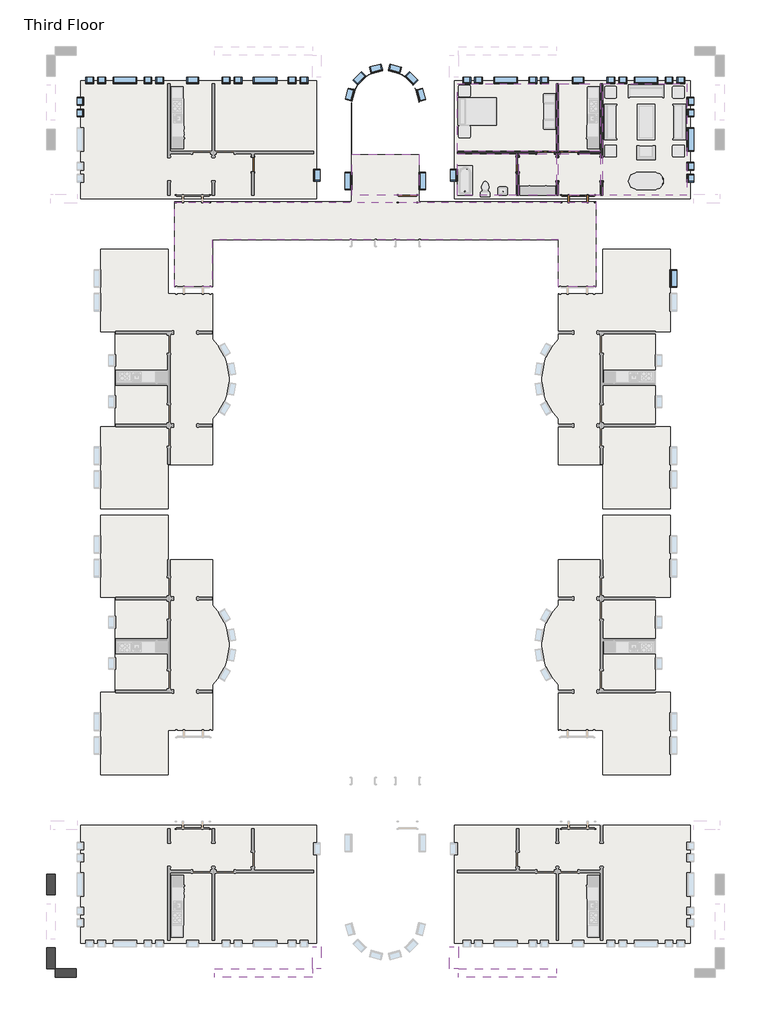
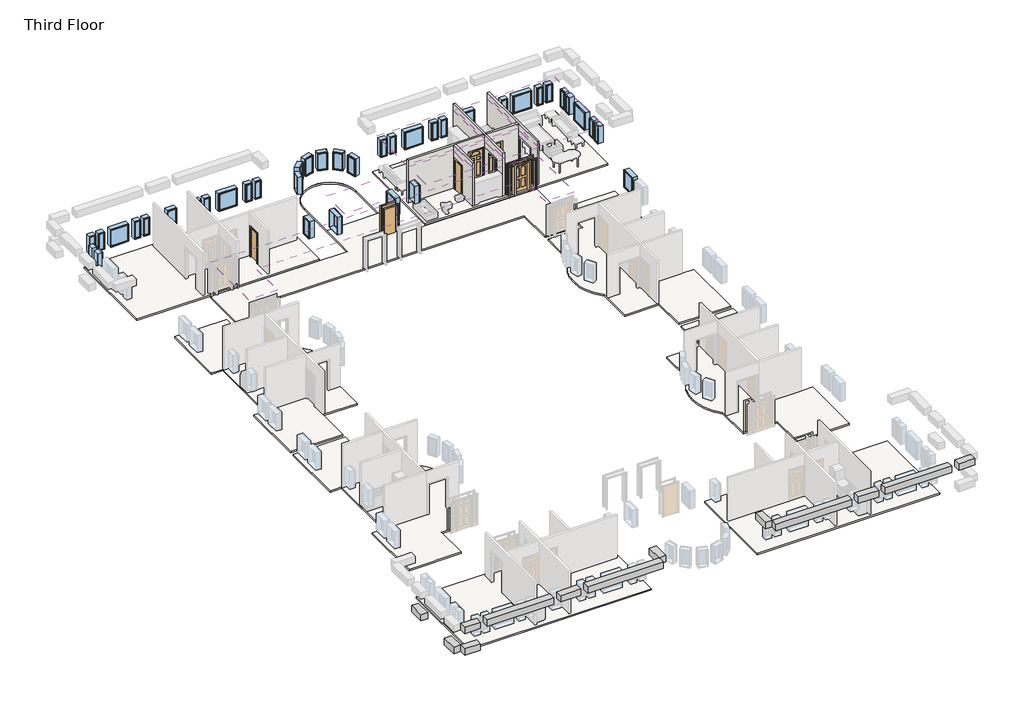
# One storey, part 3 of 4: 40 windows, 9 slabs, 8 coverings, 7 beams, 6 doors, 5 walls.
"""IFC4 building model written with IfcOpenShell, lengths in millimetres."""

from ifc_helpers import new_model, si_unit, point, frame, frame_2d, origin, place, context, project, spatial, polyline, circle_curve, trimmed, segment, composite_curve, outline, extrude, faceted_brep, transform, mapped, element, save
from components import door_829da954, door_2e3b4da2, door_4d6c7550, door_e36758a9, door_632be17d, door_dba5aa2e, window_da97879f, window_d61ef850, window_60baf983, window_ed80354a, window_15c49d37, window_0e2fc6ce, window_6eb97611, window_d89bf842

model = new_model("IFC4")

# Units and contexts
model_context = context("Model", 3, world=origin())
ifc_project = project(units=[si_unit("LENGTHUNIT", "METRE", prefix="MILLI")], contexts=[model_context])

# Site, building, storey
site = spatial("IfcSite", under=ifc_project)
building = spatial("IfcBuilding", under=site)
storey = spatial("IfcBuildingStorey", under=building, Name="Third Floor", Elevation=6096.0)

# Beams
placement = place(None, origin())
element("IfcBeam", 1, ObjectType="Concrete-Rectangular Beam : 18 x 18", at=placement, inside=storey, context=model_context, shape_type="SweptSolid", body=[
    extrude(outline(polyline([(2093.9410437, -35349.9683133), (2093.9410437, -35807.1683133), (1027.1410437, -35807.1683133), (1027.1410437, -35349.9683133), (2093.9410437, -35349.9683133)])), frame((0.0, 0.0, 8686.8), z_axis=(0.0, 0.0, 1.0), x_axis=(1.0, 0.0, 0.0)), (0.0, 0.0, 1.0), 457.2),
    extrude(outline(polyline([(-11164.8589563, -35807.1683133), (-11164.8589563, -35349.9683133), (-6122.9589563, -35349.9683133), (-6122.9589563, -35807.1683133), (-11164.8589563, -35807.1683133)])), frame((0.0, 0.0, 8686.8), z_axis=(0.0, 0.0, 1.0), x_axis=(1.0, 0.0, 0.0)), (0.0, 0.0, 1.0), 457.2),
    extrude(outline(polyline([(569.9410437, -35349.9683133), (569.9410437, -35807.1683133), (-3862.3589563, -35807.1683133), (-3862.3589563, -35349.9683133), (569.9410437, -35349.9683133)])), frame((0.0, 0.0, 8686.8), z_axis=(0.0, 0.0, 1.0), x_axis=(1.0, 0.0, 0.0)), (0.0, 0.0, 1.0), 457.2),
    extrude(outline(polyline([(-4319.5589563, -35349.9683133), (-4319.5589563, -35807.1683133), (-5665.7589563, -35807.1683133), (-5665.7589563, -35349.9683133), (-4319.5589563, -35349.9683133)])), frame((0.0, 0.0, 8686.8), z_axis=(0.0, 0.0, 1.0), x_axis=(1.0, 0.0, 0.0)), (0.0, 0.0, 1.0), 457.2),
])
element("IfcBeam", 2, ObjectType="Concrete-Rectangular Beam : 18 x 18", at=placement, inside=storey, context=model_context, shape_type="SweptSolid", body=[
    extrude(outline(polyline([(-11622.0589563, -34232.3683133), (-11164.8589563, -34232.3683133), (-11164.8589563, -35349.9683133), (-11622.0589563, -35349.9683133), (-11622.0589563, -34232.3683133)])), frame((0.0, 0.0, 8686.8), z_axis=(0.0, 0.0, 1.0), x_axis=(1.0, 0.0, 0.0)), (0.0, 0.0, 1.0), 457.2),
])
element("IfcBeam", 3, ObjectType="Concrete-Rectangular Beam : 18 x 18", at=placement, inside=storey, context=model_context, shape_type="SweptSolid", body=[
    extrude(outline(polyline([(-30897.4839563, -35349.9683133), (-30897.4839563, -35807.1683133), (-31964.2839563, -35807.1683133), (-31964.2839563, -35349.9683133), (-30897.4839563, -35349.9683133)])), frame((0.0, 0.0, 7162.8), z_axis=(0.0, 0.0, 1.0), x_axis=(1.0, 0.0, 0.0)), (0.0, 0.0, 1.0), 457.2),
])
element("IfcBeam", 4, ObjectType="Concrete-Rectangular Beam : 18 x 18", at=placement, inside=storey, context=model_context, shape_type="SweptSolid", body=[
    extrude(outline(polyline([(-32421.4839563, -34283.1683133), (-31964.2839563, -34283.1683133), (-31964.2839563, -35349.9683133), (-32421.4839563, -35349.9683133), (-32421.4839563, -34283.1683133)])), frame((0.0, 0.0, 7162.8), z_axis=(0.0, 0.0, 1.0), x_axis=(1.0, 0.0, 0.0)), (0.0, 0.0, 1.0), 457.2),
])
element("IfcBeam", 5, ObjectType="Concrete-Rectangular Beam : 18 x 18", at=placement, inside=storey, context=model_context, shape_type="SweptSolid", body=[
    extrude(outline(polyline([(-32421.4839563, -30473.1683133), (-31964.2839563, -30473.1683133), (-31964.2839563, -31539.9683133), (-32421.4839563, -31539.9683133), (-32421.4839563, -30473.1683133)])), frame((0.0, 0.0, 7162.8), z_axis=(0.0, 0.0, 1.0), x_axis=(1.0, 0.0, 0.0)), (0.0, 0.0, 1.0), 457.2),
])
element("IfcBeam", 6, ObjectType="Concrete-Rectangular Beam : 18 x 18", at=placement, inside=storey, context=model_context, shape_type="SweptSolid", body=[
    extrude(outline(polyline([(-31964.2839563, -35807.1683133), (-31964.2839563, -35349.9683133), (-30897.4839563, -35349.9683133), (-30897.4839563, -35807.1683133), (-31964.2839563, -35807.1683133)])), frame((0.0, 0.0, 8686.8), z_axis=(0.0, 0.0, 1.0), x_axis=(1.0, 0.0, 0.0)), (0.0, 0.0, 1.0), 457.2),
    extrude(outline(polyline([(-18705.4839563, -35349.9683133), (-18705.4839563, -35807.1683133), (-23747.3839563, -35807.1683133), (-23747.3839563, -35349.9683133), (-18705.4839563, -35349.9683133)])), frame((0.0, 0.0, 8686.8), z_axis=(0.0, 0.0, 1.0), x_axis=(1.0, 0.0, 0.0)), (0.0, 0.0, 1.0), 457.2),
    extrude(outline(polyline([(-30440.2839563, -35807.1683133), (-30440.2839563, -35349.9683133), (-26007.9839563, -35349.9683133), (-26007.9839563, -35807.1683133), (-30440.2839563, -35807.1683133)])), frame((0.0, 0.0, 8686.8), z_axis=(0.0, 0.0, 1.0), x_axis=(1.0, 0.0, 0.0)), (0.0, 0.0, 1.0), 457.2),
    extrude(outline(polyline([(-25550.7839563, -35807.1683133), (-25550.7839563, -35349.9683133), (-24204.5839563, -35349.9683133), (-24204.5839563, -35807.1683133), (-25550.7839563, -35807.1683133)])), frame((0.0, 0.0, 8686.8), z_axis=(0.0, 0.0, 1.0), x_axis=(1.0, 0.0, 0.0)), (0.0, 0.0, 1.0), 457.2),
])
element("IfcBeam", 7, ObjectType="Concrete-Rectangular Beam : 18 x 18", at=placement, inside=storey, context=model_context, shape_type="SweptSolid", body=[
    extrude(outline(polyline([(-18705.4839563, -34232.3683133), (-18248.2839563, -34232.3683133), (-18248.2839563, -35349.9683133), (-18705.4839563, -35349.9683133), (-18705.4839563, -34232.3683133)])), frame((0.0, 0.0, 8686.8), z_axis=(0.0, 0.0, 1.0), x_axis=(1.0, 0.0, 0.0)), (0.0, 0.0, 1.0), 457.2),
])

# Coverings
element("IfcCovering", 8, ObjectType="GWB on Mtl. Stud", at=placement, inside=storey, context=model_context, shape_type="SweptSolid", body=[
    extrude(outline(polyline([(-11217.2464563, 10270.0191867), (-6122.9589563, 10270.0191867), (-6122.9589563, 6787.0441867), (-11217.2464563, 6787.0441867), (-11217.2464563, 10270.0191867)])), frame((0.0, 0.0, 8686.8), z_axis=(0.0, 0.0, 1.0), x_axis=(1.0, 0.0, 0.0)), (0.0, 0.0, 1.0), 107.95),
])
element("IfcCovering", 9, ObjectType="GWB on Mtl. Stud", at=placement, inside=storey, context=model_context, shape_type="SweptSolid", body=[
    extrude(outline(polyline([(-5995.9589563, 6787.0441867), (-5995.9589563, 10270.0191867), (-3836.9589563, 10270.0191867), (-3836.9589563, 6787.0441867), (-5995.9589563, 6787.0441867)])), frame((0.0, 0.0, 8686.8), z_axis=(0.0, 0.0, 1.0), x_axis=(1.0, 0.0, 0.0)), (0.0, 0.0, 1.0), 107.95),
])
element("IfcCovering", 10, ObjectType="GWB on Mtl. Stud", at=placement, inside=storey, context=model_context, shape_type="SweptSolid", body=[
    extrude(outline(polyline([(-3709.9589563, 4526.4441867), (-3709.9589563, 10270.0191867), (622.3285437, 10270.0191867), (622.3285437, 4526.4441867), (-3709.9589563, 4526.4441867)])), frame((0.0, 0.0, 8686.8), z_axis=(0.0, 0.0, 1.0), x_axis=(1.0, 0.0, 0.0)), (0.0, 0.0, 1.0), 107.95),
])
element("IfcCovering", 11, ObjectType="GWB on Mtl. Stud", at=placement, inside=storey, context=model_context, shape_type="SweptSolid", body=[
    extrude(outline(polyline([(-3836.9589563, 4526.4441867), (-5995.9589563, 4526.4441867), (-5995.9589563, 6660.0441867), (-3836.9589563, 6660.0441867), (-3836.9589563, 4526.4441867)])), frame((0.0, 0.0, 8686.8), z_axis=(0.0, 0.0, 1.0), x_axis=(1.0, 0.0, 0.0)), (0.0, 0.0, 1.0), 107.95),
])
element("IfcCovering", 12, ObjectType="GWB on Mtl. Stud", at=placement, inside=storey, context=model_context, shape_type="SweptSolid", body=[
    extrude(outline(polyline([(-6122.9589563, 4526.4441867), (-8042.2464563, 4526.4441867), (-8042.2464563, 6660.0441867), (-6122.9589563, 6660.0441867), (-6122.9589563, 4526.4441867)])), frame((0.0, 0.0, 8686.8), z_axis=(0.0, 0.0, 1.0), x_axis=(1.0, 0.0, 0.0)), (0.0, 0.0, 1.0), 107.95),
])
element("IfcCovering", 13, ObjectType="GWB on Mtl. Stud", at=placement, inside=storey, context=model_context, shape_type="SweptSolid", body=[
    extrude(outline(polyline([(-8169.2464563, 6660.0441867), (-8169.2464563, 4526.4441867), (-11217.2464563, 4526.4441867), (-11217.2464563, 6660.0441867), (-8169.2464563, 6660.0441867)])), frame((0.0, 0.0, 8686.8), z_axis=(0.0, 0.0, 1.0), x_axis=(1.0, 0.0, 0.0)), (0.0, 0.0, 1.0), 107.95),
])
element("IfcCovering", 14, ObjectType="GWB on Mtl. Stud", at=placement, inside=storey, context=model_context, shape_type="SweptSolid", body=[
    extrude(outline(polyline([(-13206.3839563, 4526.4441867), (-16663.9589563, 4526.4441867), (-16663.9589563, 6636.2316867), (-13206.3839563, 6636.2316867), (-13206.3839563, 4526.4441867)])), frame((0.0, 0.0, 8534.4), z_axis=(0.0, 0.0, 1.0), x_axis=(1.0, 0.0, 0.0)), (0.0, 0.0, 1.0), 107.95),
])
element("IfcCovering", 15, ObjectType="GWB on Mtl. Stud", at=placement, inside=storey, context=model_context, shape_type="SweptSolid", body=[
    extrude(outline(polyline([(-5995.9589563, -197.9558133), (-5995.9589563, 2240.4441867), (-23874.3839563, 2240.4441867), (-23874.3839563, -197.9558133), (-25807.9589563, -197.9558133), (-25807.9589563, 4174.0191867), (-4062.3839563, 4174.0191867), (-4062.3839563, -197.9558133), (-5995.9589563, -197.9558133)])), frame((0.0, 0.0, 8534.4), z_axis=(0.0, 0.0, 1.0), x_axis=(1.0, 0.0, 0.0)), (0.0, 0.0, 1.0), 107.95),
])

# Doors
door_shape = door_829da954(model_context)
element("IfcDoor", 16, ObjectType="Single-Decorative 2 : 36\" x 84\"", at=placement, inside=storey, context=model_context, shape_type="MappedRepresentation", body=[
    mapped(door_shape, transform((-5449.8589563, 6723.5441867, 6096.0), x_axis=(-1.0, 0.0, 0.0), y_axis=(0.0, -1.0, 0.0), z_axis=(0.0, 0.0, 1.0))),
])
door_2_shape = door_2e3b4da2(model_context)
element("IfcDoor", 17, ObjectType="Single-Decorative 2 : 36\" x 84\"", at=placement, inside=storey, context=model_context, shape_type="MappedRepresentation", body=[
    mapped(door_2_shape, transform((-6669.0589563, 6723.5441867, 6096.0), x_axis=(1.0, 0.0, 0.0), y_axis=(0.0, 1.0, 0.0), z_axis=(0.0, 0.0, 1.0))),
])
door_3_shape = door_4d6c7550(model_context)
element("IfcDoor", 18, ObjectType="Single-Flush : 30\" x 84\"", at=placement, inside=storey, context=model_context, shape_type="MappedRepresentation", body=[
    mapped(door_3_shape, transform((-8105.7464563, 6113.9441867, 6096.0), x_axis=(0.0, 1.0, 0.0), y_axis=(-1.0, 0.0, 0.0), z_axis=(0.0, 0.0, 1.0))),
])
door_4_shape = door_e36758a9(model_context)
element("IfcDoor", 19, ObjectType="Single-Flush : 30\" x 84\"", at=placement, inside=storey, context=model_context, shape_type="MappedRepresentation", body=[
    mapped(door_4_shape, transform((-21764.5964563, 6113.9441867, 6096.0), x_axis=(0.0, 1.0, 0.0), y_axis=(-1.0, 0.0, 0.0), z_axis=(0.0, 0.0, 1.0))),
])
door_5_shape = door_632be17d(model_context)
element("IfcDoor", 20, ObjectType="Single-Flush : 36\" x 84\"", at=placement, inside=storey, context=model_context, shape_type="MappedRepresentation", body=[
    mapped(door_5_shape, transform((-13792.1714563, 4350.2316867, 6096.0), x_axis=(1.0, 0.0, 0.0), y_axis=(0.0, 1.0, 0.0), z_axis=(0.0, 0.0, 1.0))),
])
door_6_shape = door_dba5aa2e(model_context)
element("IfcDoor", 21, ObjectType="Single-Raised Panel with Sidelights : 36\" x 84\"", at=placement, inside=storey, context=model_context, shape_type="MappedRepresentation", body=[
    mapped(door_6_shape, transform((-4992.6589563, 4350.2316867, 6096.0), x_axis=(-1.0, 0.0, 0.0), y_axis=(0.0, -1.0, 0.0), z_axis=(0.0, 0.0, 1.0))),
])

# Slabs
element("IfcSlab", 22, ObjectType="LW Concrete on Metal Deck", at=placement, inside=storey, context=model_context, shape_type="SweptSolid", body=[
    extrude(outline(polyline([(787.4285437, 10435.1191867), (787.4285437, 4361.3441867), (-11382.3464563, 4361.3441867), (-11382.3464563, 10435.1191867), (787.4285437, 10435.1191867)])), frame((0.0, 0.0, 5991.225), z_axis=(0.0, 0.0, 1.0), x_axis=(1.0, 0.0, 0.0)), (0.0, 0.0, 1.0), 104.775),
])
element("IfcSlab", 23, ObjectType="LW Concrete on Metal Deck", at=placement, inside=storey, context=model_context, shape_type="SweptSolid", body=[
    extrude(outline(composite_curve([segment(polyline([(-13193.6839563, 9227.0316867), (-13193.6839563, 4186.7191867), (-4062.3839563, 4186.7191867), (-4062.3839563, -197.9558133), (-6008.6589563, -197.9558133), (-6008.6589563, 2227.7441867), (-23861.6839563, 2227.7441867), (-23861.6839563, -197.9558133), (-25807.9589563, -197.9558133), (-25807.9589563, 4186.7191867), (-16676.6589563, 4186.7191867), (-16676.6589563, 9227.0316867)]), True, "CONTINUOUS"), segment(trimmed(circle_curve(frame_2d((-14935.1714563, 9227.0316867)), 1741.4875), [point((-16676.6589563, 9227.0316867))], [point((-13193.6839563, 9227.0316867))], False, "CARTESIAN"), True, "CONTINUOUS")], self_intersect=False), holes=[composite_curve([segment(polyline([(-16663.9589563, 6636.2316867), (-13206.3839563, 6636.2316867), (-13206.3839563, 9227.0316867)]), True, "CONTINUOUS"), segment(trimmed(circle_curve(frame_2d((-14935.1714563, 9227.0316867)), 1728.7875), [point((-13206.3839563, 9227.0316867))], [point((-16663.9589563, 9227.0316867))], True, "CARTESIAN"), True, "CONTINUOUS"), segment(polyline([(-16663.9589563, 9227.0316867), (-16663.9589563, 6636.2316867)]), True, "CONTINUOUS")], self_intersect=False)]), frame((0.0, 0.0, 5991.225), z_axis=(0.0, 0.0, 1.0), x_axis=(1.0, 0.0, 0.0)), (0.0, 0.0, 1.0), 104.775),
])
element("IfcSlab", 24, ObjectType="LW Concrete on Metal Deck", at=placement, inside=storey, context=model_context, shape_type="SweptSolid", body=[
    extrude(outline(composite_curve([segment(polyline([(-239.6839563, -7395.6808133), (-239.6839563, -11640.6558133), (-3722.6589563, -11640.6558133), (-3722.6589563, -9354.6558133), (-6008.6589563, -9354.6558133), (-6008.6589563, -6994.1453152)]), True, "CONTINUOUS"), segment(trimmed(circle_curve(frame_2d((-3995.4640713, -4946.1683133)), 2871.7875), [point((-6008.6589563, -6994.1453152))], [point((-6008.6589563, -2898.1913115))], False, "CARTESIAN"), True, "CONTINUOUS"), segment(polyline([(-6008.6589563, -2898.1913115), (-6008.6589563, -537.6808133), (-3722.6589563, -537.6808133), (-3722.6589563, 1748.3191867), (-239.6839563, 1748.3191867), (-239.6839563, -2496.6558133), (-1001.6839563, -2496.6558133), (-1001.6839563, -7395.6808133), (-239.6839563, -7395.6808133)]), True, "CONTINUOUS")], self_intersect=False)), frame((0.0, 0.0, 5991.225), z_axis=(0.0, 0.0, 1.0), x_axis=(1.0, 0.0, 0.0)), (0.0, 0.0, 1.0), 104.775),
])
element("IfcSlab", 25, ObjectType="LW Concrete on Metal Deck", at=placement, inside=storey, context=model_context, shape_type="SweptSolid", body=[
    extrude(outline(polyline([(-30657.7714563, 10435.1191867), (-18487.9964563, 10435.1191867), (-18487.9964563, 4361.3441867), (-30657.7714563, 4361.3441867), (-30657.7714563, 10435.1191867)])), frame((0.0, 0.0, 5991.225), z_axis=(0.0, 0.0, 1.0), x_axis=(1.0, 0.0, 0.0)), (0.0, 0.0, 1.0), 104.775),
])
element("IfcSlab", 26, ObjectType="LW Concrete on Metal Deck", at=placement, inside=storey, context=model_context, shape_type="SweptSolid", body=[
    extrude(outline(composite_curve([segment(polyline([(-29630.6589563, -7395.6808133), (-28868.6589563, -7395.6808133), (-28868.6589563, -2496.6558133), (-29630.6589563, -2496.6558133), (-29630.6589563, 1748.3191867), (-26147.6839563, 1748.3191867), (-26147.6839563, -537.6808133), (-23861.6839563, -537.6808133), (-23861.6839563, -2898.1913115)]), True, "CONTINUOUS"), segment(trimmed(circle_curve(frame_2d((-25874.8788413, -4946.1683133)), 2871.7875), [point((-23861.6839563, -2898.1913115))], [point((-23861.6839563, -6994.1453152))], False, "CARTESIAN"), True, "CONTINUOUS"), segment(polyline([(-23861.6839563, -6994.1453152), (-23861.6839563, -9354.6558133), (-26147.6839563, -9354.6558133), (-26147.6839563, -11640.6558133), (-29630.6589563, -11640.6558133), (-29630.6589563, -7395.6808133)]), True, "CONTINUOUS")], self_intersect=False)), frame((0.0, 0.0, 5991.225), z_axis=(0.0, 0.0, 1.0), x_axis=(1.0, 0.0, 0.0)), (0.0, 0.0, 1.0), 104.775),
])
element("IfcSlab", 27, ObjectType="LW Concrete on Metal Deck", at=placement, inside=storey, context=model_context, shape_type="SweptSolid", body=[
    extrude(outline(polyline([(787.4285437, -34043.4558133), (-11382.3464563, -34043.4558133), (-11382.3464563, -27969.6808133), (787.4285437, -27969.6808133), (787.4285437, -34043.4558133)])), frame((0.0, 0.0, 5991.225), z_axis=(0.0, 0.0, 1.0), x_axis=(1.0, 0.0, 0.0)), (0.0, 0.0, 1.0), 104.775),
])
element("IfcSlab", 28, ObjectType="LW Concrete on Metal Deck", at=placement, inside=storey, context=model_context, shape_type="SweptSolid", body=[
    extrude(outline(composite_curve([segment(polyline([(-239.6839563, -16212.6558133), (-1001.6839563, -16212.6558133), (-1001.6839563, -21111.6808133), (-239.6839563, -21111.6808133), (-239.6839563, -25356.6558133), (-3722.6589563, -25356.6558133), (-3722.6589563, -23070.6558133), (-6008.6589563, -23070.6558133), (-6008.6589563, -20710.1453152)]), True, "CONTINUOUS"), segment(trimmed(circle_curve(frame_2d((-3995.4640713, -18662.1683133)), 2871.7875), [point((-6008.6589563, -20710.1453152))], [point((-6008.6589563, -16614.1913115))], False, "CARTESIAN"), True, "CONTINUOUS"), segment(polyline([(-6008.6589563, -16614.1913115), (-6008.6589563, -14253.6808133), (-3722.6589563, -14253.6808133), (-3722.6589563, -11967.6808133), (-239.6839563, -11967.6808133), (-239.6839563, -16212.6558133)]), True, "CONTINUOUS")], self_intersect=False)), frame((0.0, 0.0, 5991.225), z_axis=(0.0, 0.0, 1.0), x_axis=(1.0, 0.0, 0.0)), (0.0, 0.0, 1.0), 104.775),
])
element("IfcSlab", 29, ObjectType="LW Concrete on Metal Deck", at=placement, inside=storey, context=model_context, shape_type="SweptSolid", body=[
    extrude(outline(polyline([(-30657.7714563, -34043.4558133), (-30657.7714563, -27969.6808133), (-18487.9964563, -27969.6808133), (-18487.9964563, -34043.4558133), (-30657.7714563, -34043.4558133)])), frame((0.0, 0.0, 5991.225), z_axis=(0.0, 0.0, 1.0), x_axis=(1.0, 0.0, 0.0)), (0.0, 0.0, 1.0), 104.775),
])
element("IfcSlab", 30, ObjectType="LW Concrete on Metal Deck", at=placement, inside=storey, context=model_context, shape_type="SweptSolid", body=[
    extrude(outline(composite_curve([segment(polyline([(-29630.6589563, -16212.6558133), (-29630.6589563, -11967.6808133), (-26147.6839563, -11967.6808133), (-26147.6839563, -14253.6808133), (-23861.6839563, -14253.6808133), (-23861.6839563, -16614.1913115)]), True, "CONTINUOUS"), segment(trimmed(circle_curve(frame_2d((-25874.8788413, -18662.1683133)), 2871.7875), [point((-23861.6839563, -16614.1913115))], [point((-23861.6839563, -20710.1453152))], False, "CARTESIAN"), True, "CONTINUOUS"), segment(polyline([(-23861.6839563, -20710.1453152), (-23861.6839563, -23070.6558133), (-26147.6839563, -23070.6558133), (-26147.6839563, -25356.6558133), (-29630.6589563, -25356.6558133), (-29630.6589563, -21111.6808133), (-28868.6589563, -21111.6808133), (-28868.6589563, -16212.6558133), (-29630.6589563, -16212.6558133)]), True, "CONTINUOUS")], self_intersect=False)), frame((0.0, 0.0, 5991.225), z_axis=(0.0, 0.0, 1.0), x_axis=(1.0, 0.0, 0.0)), (0.0, 0.0, 1.0), 104.775),
])

# Walls
element("IfcWall", 31, ObjectType="Interior - 5\" Partition (2-hr)", at=placement, inside=storey, context=model_context, shape_type="Brep", body=[
    faceted_brep([(-3836.9589563, 10270.0191867, 6096.0), (-3836.9589563, 6787.0441867, 6096.0), (-3836.9589563, 6660.0441867, 6096.0), (-3836.9589563, 6483.8316867, 6096.0), (-3836.9589563, 6483.8316867, 8229.6), (-3836.9589563, 5264.6316867, 8229.6), (-3836.9589563, 5264.6316867, 6096.0), (-3836.9589563, 4526.4441867, 6096.0), (-3836.9589563, 4526.4441867, 9144.0), (-3836.9589563, 6660.0441867, 9144.0), (-3836.9589563, 6787.0441867, 9144.0), (-3836.9589563, 10270.0191867, 9144.0), (-3709.9589563, 6483.8316867, 8229.6), (-3709.9589563, 6483.8316867, 6096.0), (-3709.9589563, 10270.0191867, 6096.0), (-3709.9589563, 10270.0191867, 9144.0), (-3709.9589563, 4526.4441867, 9144.0), (-3709.9589563, 4526.4441867, 6096.0), (-3709.9589563, 5264.6316867, 6096.0), (-3709.9589563, 5264.6316867, 8229.6)], [[[0, 1, 2, 3, 4, 5, 6, 7, 8, 9, 10, 11]], [[12, 13, 14, 15, 16, 17, 18, 19]], [[14, 13, 3, 2, 1, 0]], [[18, 17, 7, 6]], [[11, 10, 9, 8, 16, 15]], [[0, 11, 15, 14]], [[8, 7, 17, 16]], [[6, 5, 19, 18]], [[4, 3, 13, 12]], [[5, 4, 12, 19]]]),
])
element("IfcWall", 32, ObjectType="Interior - 5\" Partition (2-hr)", at=placement, inside=storey, context=model_context, shape_type="Brep", body=[
    faceted_brep([(-6122.9589563, 4526.4441867, 6096.0), (-6122.9589563, 5264.6316867, 6096.0), (-5995.9589563, 5264.6316867, 6096.0), (-5995.9589563, 4526.4441867, 6096.0), (-6122.9589563, 6483.8316867, 6096.0), (-6122.9589563, 6660.0441867, 6096.0), (-6122.9589563, 6787.0441867, 6096.0), (-6122.9589563, 10270.0191867, 6096.0), (-5995.9589563, 10270.0191867, 6096.0), (-5995.9589563, 6787.0441867, 6096.0), (-5995.9589563, 6660.0441867, 6096.0), (-5995.9589563, 6483.8316867, 6096.0), (-6122.9589563, 10270.0191867, 9144.0), (-6122.9589563, 6787.0441867, 9144.0), (-6122.9589563, 6660.0441867, 9144.0), (-6122.9589563, 4526.4441867, 9144.0), (-5995.9589563, 4526.4441867, 9144.0), (-5995.9589563, 6660.0441867, 9144.0), (-5995.9589563, 6787.0441867, 9144.0), (-5995.9589563, 10270.0191867, 9144.0), (-6122.9589563, 5264.6316867, 8229.6), (-6122.9589563, 6483.8316867, 8229.6), (-5995.9589563, 5264.6316867, 8229.6), (-5995.9589563, 6483.8316867, 8229.6)], [[[0, 1, 2, 3]], [[4, 5, 6, 7, 8, 9, 10, 11]], [[12, 13, 14, 15, 16, 17, 18, 19]], [[20, 1, 0, 15, 14, 13, 12, 7, 6, 5, 4, 21]], [[3, 2, 22, 23, 11, 10, 9, 8, 19, 18, 17, 16]], [[7, 12, 19, 8]], [[15, 0, 3, 16]], [[11, 23, 21, 4]], [[22, 2, 1, 20]], [[23, 22, 20, 21]]]),
])
element("IfcWall", 33, ObjectType="Interior - 5\" Partition (2-hr)", at=placement, inside=storey, context=model_context, shape_type="Brep", body=[
    faceted_brep([(-6122.9589563, 6660.0441867, 6096.0), (-6211.8589563, 6660.0441867, 6096.0), (-6211.8589563, 6787.0441867, 6096.0), (-6122.9589563, 6787.0441867, 6096.0), (-7126.2589563, 6660.0441867, 6096.0), (-8042.2464563, 6660.0441867, 6096.0), (-8169.2464563, 6660.0441867, 6096.0), (-11217.2464563, 6660.0441867, 6096.0), (-11217.2464563, 6787.0441867, 6096.0), (-7126.2589563, 6787.0441867, 6096.0), (-11217.2464563, 6660.0441867, 9144.0), (-8169.2464563, 6660.0441867, 9144.0), (-8042.2464563, 6660.0441867, 9144.0), (-6122.9589563, 6660.0441867, 9144.0), (-6122.9589563, 6787.0441867, 9144.0), (-11217.2464563, 6787.0441867, 9144.0), (-6211.8589563, 6660.0441867, 8229.6), (-7126.2589563, 6660.0441867, 8229.6), (-6211.8589563, 6787.0441867, 8229.6), (-7126.2589563, 6787.0441867, 8229.6)], [[[0, 1, 2, 3]], [[4, 5, 6, 7, 8, 9]], [[10, 11, 12, 13, 14, 15]], [[16, 1, 0, 13, 12, 11, 10, 7, 6, 5, 4, 17]], [[3, 2, 18, 19, 9, 8, 15, 14]], [[13, 0, 3, 14]], [[7, 10, 15, 8]], [[18, 2, 1, 16]], [[19, 18, 16, 17]], [[9, 19, 17, 4]]]),
])
element("IfcWall", 34, ObjectType="Interior - 5\" Partition (2-hr)", at=placement, inside=storey, context=model_context, shape_type="SweptSolid", body=[
    extrude(outline(polyline([(6660.0441867, 6096.0), (6494.9441867, 6096.0), (6494.9441867, 8229.6), (5732.9441867, 8229.6), (5732.9441867, 6096.0), (4526.4441867, 6096.0), (4526.4441867, 9144.0), (6660.0441867, 9144.0), (6660.0441867, 6096.0)])), frame((-8169.2464563, 0.0, 0.0), z_axis=(1.0, 0.0, 0.0), x_axis=(0.0, 1.0, 0.0)), (0.0, 0.0, 1.0), 127.0),
])
element("IfcWall", 35, ObjectType="Interior - 5\" Partition (2-hr)", at=placement, inside=storey, context=model_context, shape_type="SweptSolid", body=[
    extrude(outline(polyline([(6096.0, -5995.9589563), (6096.0, -5907.0589563), (8229.6, -5907.0589563), (8229.6, -4992.6589563), (6096.0, -4992.6589563), (6096.0, -3836.9589563), (9144.0, -3836.9589563), (9144.0, -5995.9589563), (6096.0, -5995.9589563)])), frame((0.0, 6660.0441867, 0.0), z_axis=(0.0, 1.0, 0.0), x_axis=(0.0, 0.0, 1.0)), (0.0, 0.0, 1.0), 127.0),
])

# Windows
window_shape = window_da97879f(model_context)
element("IfcWindow", 36, ObjectType="Fixed : 16\" x 48\"", at=placement, inside=storey, context=model_context, shape_type="MappedRepresentation", body=[
    mapped(window_shape, transform((-10771.1589563, 10446.2316867, 6096.0), x_axis=(-1.0, 0.0, 0.0), y_axis=(0.0, -1.0, 0.0), z_axis=(0.0, 0.0, 1.0))),
])
element("IfcWindow", 37, ObjectType="Fixed : 16\" x 48\"", at=placement, inside=storey, context=model_context, shape_type="MappedRepresentation", body=[
    mapped(window_shape, transform((-10161.5589563, 10446.2316867, 6096.0), x_axis=(-1.0, 0.0, 0.0), y_axis=(0.0, -1.0, 0.0), z_axis=(0.0, 0.0, 1.0))),
])
element("IfcWindow", 38, ObjectType="Fixed : 16\" x 48\"", at=placement, inside=storey, context=model_context, shape_type="MappedRepresentation", body=[
    mapped(window_shape, transform((-3328.9589563, 10446.2316867, 6096.0), x_axis=(-1.0, 0.0, 0.0), y_axis=(0.0, -1.0, 0.0), z_axis=(0.0, 0.0, 1.0))),
])
element("IfcWindow", 39, ObjectType="Fixed : 16\" x 48\"", at=placement, inside=storey, context=model_context, shape_type="MappedRepresentation", body=[
    mapped(window_shape, transform((-2719.3589563, 10446.2316867, 6096.0), x_axis=(-1.0, 0.0, 0.0), y_axis=(0.0, -1.0, 0.0), z_axis=(0.0, 0.0, 1.0))),
])
element("IfcWindow", 40, ObjectType="Fixed : 16\" x 48\"", at=placement, inside=storey, context=model_context, shape_type="MappedRepresentation", body=[
    mapped(window_shape, transform((798.5410437, 9417.5316867, 6096.0), x_axis=(0.0, 1.0, 0.0), y_axis=(-1.0, 0.0, 0.0), z_axis=(0.0, 0.0, 1.0))),
])
element("IfcWindow", 41, ObjectType="Fixed : 16\" x 48\"", at=placement, inside=storey, context=model_context, shape_type="MappedRepresentation", body=[
    mapped(window_shape, transform((798.5410437, 8807.9316867, 6096.0), x_axis=(0.0, 1.0, 0.0), y_axis=(-1.0, 0.0, 0.0), z_axis=(0.0, 0.0, 1.0))),
])
element("IfcWindow", 42, ObjectType="Fixed : 16\" x 48\"", at=placement, inside=storey, context=model_context, shape_type="MappedRepresentation", body=[
    mapped(window_shape, transform((-23188.5839563, 10446.2316867, 6096.0), x_axis=(-1.0, 0.0, 0.0), y_axis=(0.0, -1.0, 0.0), z_axis=(0.0, 0.0, 1.0))),
])
element("IfcWindow", 43, ObjectType="Fixed : 16\" x 48\"", at=placement, inside=storey, context=model_context, shape_type="MappedRepresentation", body=[
    mapped(window_shape, transform((-22578.9839563, 10446.2316867, 6096.0), x_axis=(-1.0, 0.0, 0.0), y_axis=(0.0, -1.0, 0.0), z_axis=(0.0, 0.0, 1.0))),
])
element("IfcWindow", 44, ObjectType="Fixed : 16\" x 48\"", at=placement, inside=storey, context=model_context, shape_type="MappedRepresentation", body=[
    mapped(window_shape, transform((-30224.3839563, 10446.2316867, 6096.0), x_axis=(-1.0, 0.0, 0.0), y_axis=(0.0, -1.0, 0.0), z_axis=(0.0, 0.0, 1.0))),
])
element("IfcWindow", 45, ObjectType="Fixed : 16\" x 48\"", at=placement, inside=storey, context=model_context, shape_type="MappedRepresentation", body=[
    mapped(window_shape, transform((-29614.7839563, 10446.2316867, 6096.0), x_axis=(-1.0, 0.0, 0.0), y_axis=(0.0, -1.0, 0.0), z_axis=(0.0, 0.0, 1.0))),
])
window_2_shape = window_d61ef850(model_context)
element("IfcWindow", 46, ObjectType="Fixed : 16\" x 48\"", at=placement, inside=storey, context=model_context, shape_type="MappedRepresentation", body=[
    mapped(window_2_shape, transform((-6681.7589563, 10446.2316867, 6096.0), x_axis=(1.0, 0.0, 0.0), y_axis=(0.0, 1.0, 0.0), z_axis=(0.0, 0.0, 1.0))),
])
element("IfcWindow", 47, ObjectType="Fixed : 16\" x 48\"", at=placement, inside=storey, context=model_context, shape_type="MappedRepresentation", body=[
    mapped(window_2_shape, transform((-7291.3589563, 10446.2316867, 6096.0), x_axis=(1.0, 0.0, 0.0), y_axis=(0.0, 1.0, 0.0), z_axis=(0.0, 0.0, 1.0))),
])
element("IfcWindow", 48, ObjectType="Fixed : 16\" x 48\"", at=placement, inside=storey, context=model_context, shape_type="MappedRepresentation", body=[
    mapped(window_2_shape, transform((354.0410437, 10446.2316867, 6096.0), x_axis=(1.0, 0.0, 0.0), y_axis=(0.0, 1.0, 0.0), z_axis=(0.0, 0.0, 1.0))),
])
element("IfcWindow", 49, ObjectType="Fixed : 16\" x 48\"", at=placement, inside=storey, context=model_context, shape_type="MappedRepresentation", body=[
    mapped(window_2_shape, transform((-255.5589563, 10446.2316867, 6096.0), x_axis=(1.0, 0.0, 0.0), y_axis=(0.0, 1.0, 0.0), z_axis=(0.0, 0.0, 1.0))),
])
element("IfcWindow", 50, ObjectType="Fixed : 16\" x 48\"", at=placement, inside=storey, context=model_context, shape_type="MappedRepresentation", body=[
    mapped(window_2_shape, transform((798.5410437, 5378.9316867, 6096.0), x_axis=(0.0, -1.0, 0.0), y_axis=(1.0, 0.0, 0.0), z_axis=(0.0, 0.0, 1.0))),
])
element("IfcWindow", 51, ObjectType="Fixed : 16\" x 48\"", at=placement, inside=storey, context=model_context, shape_type="MappedRepresentation", body=[
    mapped(window_2_shape, transform((798.5410437, 5988.5316867, 6096.0), x_axis=(0.0, -1.0, 0.0), y_axis=(1.0, 0.0, 0.0), z_axis=(0.0, 0.0, 1.0))),
])
element("IfcWindow", 52, ObjectType="Fixed : 16\" x 48\"", at=placement, inside=storey, context=model_context, shape_type="MappedRepresentation", body=[
    mapped(window_2_shape, transform((-19099.1839563, 10446.2316867, 6096.0), x_axis=(1.0, 0.0, 0.0), y_axis=(0.0, 1.0, 0.0), z_axis=(0.0, 0.0, 1.0))),
])
element("IfcWindow", 53, ObjectType="Fixed : 16\" x 48\"", at=placement, inside=storey, context=model_context, shape_type="MappedRepresentation", body=[
    mapped(window_2_shape, transform((-19708.7839563, 10446.2316867, 6096.0), x_axis=(1.0, 0.0, 0.0), y_axis=(0.0, 1.0, 0.0), z_axis=(0.0, 0.0, 1.0))),
])
element("IfcWindow", 54, ObjectType="Fixed : 16\" x 48\"", at=placement, inside=storey, context=model_context, shape_type="MappedRepresentation", body=[
    mapped(window_2_shape, transform((-26541.3839563, 10446.2316867, 6096.0), x_axis=(1.0, 0.0, 0.0), y_axis=(0.0, 1.0, 0.0), z_axis=(0.0, 0.0, 1.0))),
])
element("IfcWindow", 55, ObjectType="Fixed : 16\" x 48\"", at=placement, inside=storey, context=model_context, shape_type="MappedRepresentation", body=[
    mapped(window_2_shape, transform((-27150.9839563, 10446.2316867, 6096.0), x_axis=(1.0, 0.0, 0.0), y_axis=(0.0, 1.0, 0.0), z_axis=(0.0, 0.0, 1.0))),
])
element("IfcWindow", 56, ObjectType="Fixed : 16\" x 48\"", at=placement, inside=storey, context=model_context, shape_type="MappedRepresentation", body=[
    mapped(window_2_shape, transform((-30668.8839563, 9417.5316867, 6096.0), x_axis=(0.0, 1.0, 0.0), y_axis=(-1.0, 0.0, 0.0), z_axis=(0.0, 0.0, 1.0))),
])
element("IfcWindow", 57, ObjectType="Fixed : 16\" x 48\"", at=placement, inside=storey, context=model_context, shape_type="MappedRepresentation", body=[
    mapped(window_2_shape, transform((-30668.8839563, 8807.9316867, 6096.0), x_axis=(0.0, 1.0, 0.0), y_axis=(-1.0, 0.0, 0.0), z_axis=(0.0, 0.0, 1.0))),
])
window_3_shape = window_60baf983(model_context)
element("IfcWindow", 58, ObjectType="Fixed : 24\" x 48\"", at=placement, inside=storey, context=model_context, shape_type="MappedRepresentation", body=[
    mapped(window_3_shape, transform((-5030.7589563, 10446.2316867, 6096.0), x_axis=(-1.0, 0.0, 0.0), y_axis=(0.0, -1.0, 0.0), z_axis=(0.0, 0.0, 1.0))),
])
element("IfcWindow", 59, ObjectType="Fixed : 24\" x 48\"", at=placement, inside=storey, context=model_context, shape_type="MappedRepresentation", body=[
    mapped(window_3_shape, transform((-11393.4589563, 5531.3316867, 6096.0), x_axis=(0.0, -1.0, 0.0), y_axis=(1.0, 0.0, 0.0), z_axis=(0.0, 0.0, 1.0))),
])
element("IfcWindow", 60, ObjectType="Fixed : 24\" x 48\"", at=placement, inside=storey, context=model_context, shape_type="MappedRepresentation", body=[
    mapped(window_3_shape, transform((-16762.064163, 9683.0417496, 6096.0), x_axis=(-0.26176149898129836, -0.9651325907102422, 0.0), y_axis=(0.9651325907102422, -0.26176149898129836, 0.0), z_axis=(0.0, 0.0, 1.0))),
])
element("IfcWindow", 61, ObjectType="Fixed : 24\" x 48\"", at=placement, inside=storey, context=model_context, shape_type="MappedRepresentation", body=[
    mapped(window_3_shape, transform((-16289.3019188, 10535.3943388, 6096.0), x_axis=(-0.7092584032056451, -0.7049485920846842, 0.0), y_axis=(0.7049485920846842, -0.7092584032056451, 0.0), z_axis=(0.0, 0.0, 1.0))),
])
element("IfcWindow", 62, ObjectType="Fixed : 24\" x 48\"", at=placement, inside=storey, context=model_context, shape_type="MappedRepresentation", body=[
    mapped(window_3_shape, transform((-15453.7015108, 11037.1722121, 6096.0), x_axis=(-0.9667100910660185, -0.25587418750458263, 0.0), y_axis=(0.25587418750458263, -0.9667100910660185, 0.0), z_axis=(0.0, 0.0, 1.0))),
])
element("IfcWindow", 63, ObjectType="Fixed : 24\" x 48\"", at=placement, inside=storey, context=model_context, shape_type="MappedRepresentation", body=[
    mapped(window_3_shape, transform((-14479.1613934, 11053.9243933, 6096.0), x_axis=(-0.9651325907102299, 0.2617614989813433, 0.0), y_axis=(-0.2617614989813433, -0.9651325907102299, 0.0), z_axis=(0.0, 0.0, 1.0))),
])
element("IfcWindow", 64, ObjectType="Fixed : 24\" x 48\"", at=placement, inside=storey, context=model_context, shape_type="MappedRepresentation", body=[
    mapped(window_3_shape, transform((-13626.8088042, 10581.1621492, 6096.0), x_axis=(-0.7049485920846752, 0.7092584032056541, 0.0), y_axis=(-0.7092584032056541, -0.7049485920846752, 0.0), z_axis=(0.0, 0.0, 1.0))),
])
element("IfcWindow", 65, ObjectType="Fixed : 24\" x 48\"", at=placement, inside=storey, context=model_context, shape_type="MappedRepresentation", body=[
    mapped(window_3_shape, transform((-13125.0309309, 9745.5617412, 6096.0), x_axis=(-0.25587418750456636, 0.9667100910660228, 0.0), y_axis=(-0.9667100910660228, -0.25587418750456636, 0.0), z_axis=(0.0, 0.0, 1.0))),
])
window_4_shape = window_ed80354a(model_context)
element("IfcWindow", 66, ObjectType="Fixed : 24\" x 48\"", at=placement, inside=storey, context=model_context, shape_type="MappedRepresentation", body=[
    mapped(window_4_shape, transform((-24839.5839563, 10446.2316867, 6096.0), x_axis=(1.0, 0.0, 0.0), y_axis=(0.0, 1.0, 0.0), z_axis=(0.0, 0.0, 1.0))),
])
element("IfcWindow", 67, ObjectType="Fixed : 24\" x 48\"", at=placement, inside=storey, context=model_context, shape_type="MappedRepresentation", body=[
    mapped(window_4_shape, transform((-18476.8839563, 5531.3316867, 6096.0), x_axis=(0.0, -1.0, 0.0), y_axis=(1.0, 0.0, 0.0), z_axis=(0.0, 0.0, 1.0))),
])
window_5_shape = window_15c49d37(model_context)
element("IfcWindow", 68, ObjectType="Fixed : 36\" x 48\"", at=placement, inside=storey, context=model_context, shape_type="MappedRepresentation", body=[
    mapped(window_5_shape, transform((-16840.1714563, 5226.5316867, 6096.0), x_axis=(0.0, -1.0, 0.0), y_axis=(1.0, 0.0, 0.0), z_axis=(0.0, 0.0, 1.0))),
])
element("IfcWindow", 69, ObjectType="Fixed : 36\" x 48\"", at=placement, inside=storey, context=model_context, shape_type="MappedRepresentation", body=[
    mapped(window_5_shape, transform((-13030.1714563, 5302.7316867, 6096.0), x_axis=(0.0, 1.0, 0.0), y_axis=(-1.0, 0.0, 0.0), z_axis=(0.0, 0.0, 1.0))),
])
window_6_shape = window_0e2fc6ce(model_context)
element("IfcWindow", 70, ObjectType="Fixed : 36\" x 48\"", at=placement, inside=storey, context=model_context, shape_type="MappedRepresentation", body=[
    mapped(window_6_shape, transform((-76.1714563, 197.3316867, 6096.0), x_axis=(0.0, -1.0, 0.0), y_axis=(1.0, 0.0, 0.0), z_axis=(0.0, 0.0, 1.0))),
])
window_7_shape = window_6eb97611(model_context)
element("IfcWindow", 71, ObjectType="Fixed : 48\" x 48\"", at=placement, inside=storey, context=model_context, shape_type="MappedRepresentation", body=[
    mapped(window_7_shape, transform((-8764.5589563, 10446.2316867, 6096.0), x_axis=(-1.0, 0.0, 0.0), y_axis=(0.0, -1.0, 0.0), z_axis=(0.0, 0.0, 1.0))),
])
element("IfcWindow", 72, ObjectType="Fixed : 48\" x 48\"", at=placement, inside=storey, context=model_context, shape_type="MappedRepresentation", body=[
    mapped(window_7_shape, transform((-1525.5589563, 10446.2316867, 6096.0), x_axis=(-1.0, 0.0, 0.0), y_axis=(0.0, -1.0, 0.0), z_axis=(0.0, 0.0, 1.0))),
])
element("IfcWindow", 73, ObjectType="Fixed : 48\" x 48\"", at=placement, inside=storey, context=model_context, shape_type="MappedRepresentation", body=[
    mapped(window_7_shape, transform((798.5410437, 7436.3316867, 6096.0), x_axis=(0.0, 1.0, 0.0), y_axis=(-1.0, 0.0, 0.0), z_axis=(0.0, 0.0, 1.0))),
])
window_8_shape = window_d89bf842(model_context)
element("IfcWindow", 74, ObjectType="Fixed : 48\" x 48\"", at=placement, inside=storey, context=model_context, shape_type="MappedRepresentation", body=[
    mapped(window_8_shape, transform((-21105.7839563, 10446.2316867, 6096.0), x_axis=(1.0, 0.0, 0.0), y_axis=(0.0, 1.0, 0.0), z_axis=(0.0, 0.0, 1.0))),
])
element("IfcWindow", 75, ObjectType="Fixed : 48\" x 48\"", at=placement, inside=storey, context=model_context, shape_type="MappedRepresentation", body=[
    mapped(window_8_shape, transform((-28344.7839563, 10446.2316867, 6096.0), x_axis=(1.0, 0.0, 0.0), y_axis=(0.0, 1.0, 0.0), z_axis=(0.0, 0.0, 1.0))),
])

save(model, "model.ifc")
